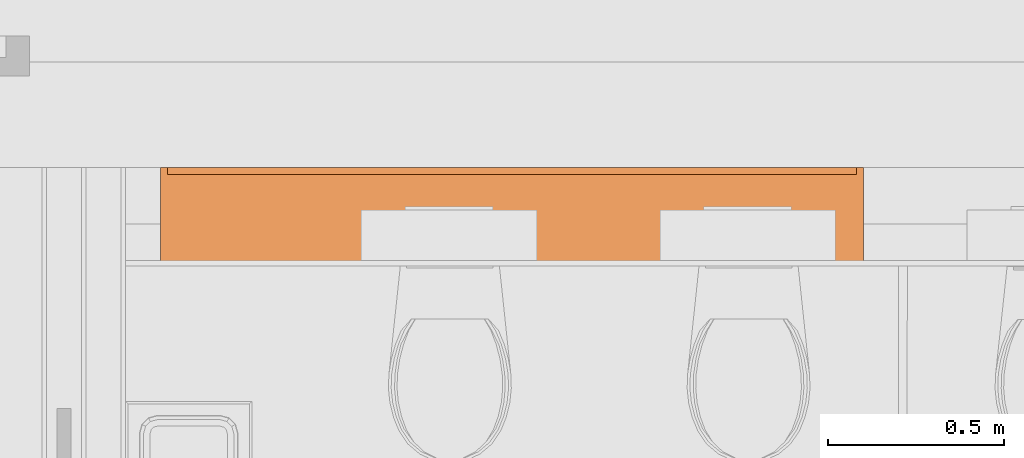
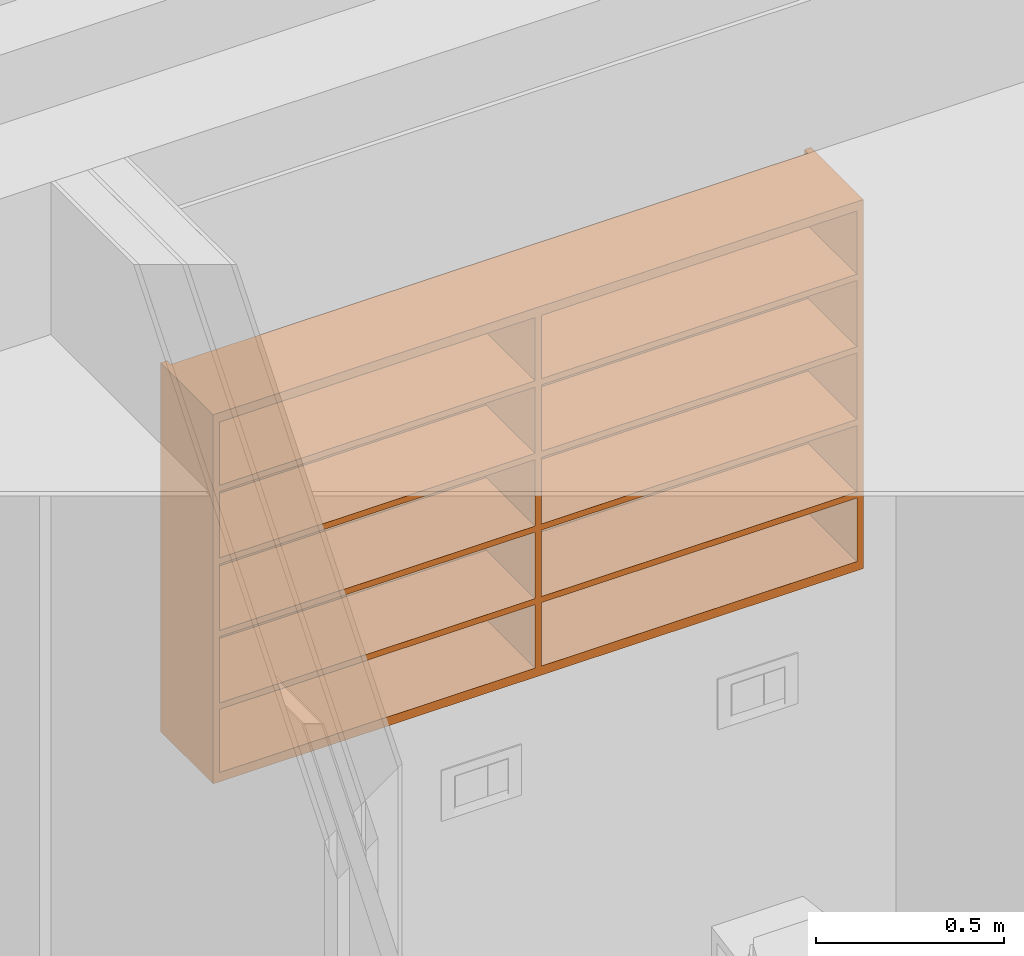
# One storey, part 113 of 167: 1 proxy.
"""IFC2X3 building model written with IfcOpenShell, lengths in millimetres."""

from ifc_helpers import new_model, entity, si_unit, converted_unit, derived_unit, money_unit, direction, frame, origin_with_axes, place, context, subcontext, project, spatial, faceted_brep, source, transform, mapped, type_object, type_shapes, element, save


model = new_model("IFC2X3")

# Units and contexts
model_context = context("Model", 3, precision=0.01, world=origin_with_axes(), true_north=direction((0.0, 1.0)))
plan_context = context("Plan", 3, precision=0.01, world=origin_with_axes(), true_north=direction((0.0, 1.0)))
body_context = subcontext(model_context, "Body", "Model", "MODEL_VIEW")
ifc_project = project(units=[si_unit("LENGTHUNIT", "METRE", prefix="MILLI"), si_unit("AREAUNIT", "SQUARE_METRE"), si_unit("VOLUMEUNIT", "CUBIC_METRE"), converted_unit("PLANEANGLEUNIT", "DEGREE", entity("IfcPlaneAngleMeasure", 0.0174532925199), si_unit("PLANEANGLEUNIT", "RADIAN"), dimensions=[0, 0, 0, 0, 0, 0, 0]), si_unit("SOLIDANGLEUNIT", "STERADIAN"), money_unit("EUR"), converted_unit("TIMEUNIT", "Year", entity("IfcTimeMeasure", 31556926.0), si_unit("TIMEUNIT", "SECOND"), dimensions=[0, 0, 1, 0, 0, 0, 0]), si_unit("MASSUNIT", "GRAM", prefix="KILO"), si_unit("THERMODYNAMICTEMPERATUREUNIT", "DEGREE_CELSIUS"), si_unit("LUMINOUSINTENSITYUNIT", "LUMEN"), si_unit("ENERGYUNIT", "JOULE", prefix="MEGA"), derived_unit("THERMALCONDUCTANCEUNIT", [(si_unit("POWERUNIT", "WATT"), 1), (si_unit("LENGTHUNIT", "METRE"), -1), (si_unit("THERMODYNAMICTEMPERATUREUNIT", "KELVIN"), -1)]), derived_unit("SPECIFICHEATCAPACITYUNIT", [(si_unit("ENERGYUNIT", "JOULE"), 1), (si_unit("MASSUNIT", "GRAM", prefix="KILO"), -1), (si_unit("THERMODYNAMICTEMPERATUREUNIT", "KELVIN"), -1)]), derived_unit("MASSDENSITYUNIT", [(si_unit("MASSUNIT", "GRAM", prefix="KILO"), 1), (si_unit("VOLUMEUNIT", "CUBIC_METRE"), -1)])], contexts=[model_context, plan_context])

# Site, building, storey
site_placement = place(None, origin_with_axes())
site = spatial("IfcSite", under=ifc_project, at=site_placement, Name="Site", CompositionType="ELEMENT")
building_placement = place(site_placement, origin_with_axes())
building = spatial("IfcBuilding", under=site, at=building_placement, Name="Naam gebouw", CompositionType="ELEMENT")
storey_placement = place(building_placement, origin_with_axes())
storey = spatial("IfcBuildingStorey", under=building, at=storey_placement, Name="Begane grond", CompositionType="ELEMENT", Elevation=0.0)

# Proxy
building_element_proxy_type = type_object("IfcBuildingElementProxyType", Name="Boekenplank 01 24", PredefinedType="NOTDEFINED")
shared_shape = source(origin_with_axes(), body_context, "Body", "Brep", [
    faceted_brep([(1980.0, 280.0, 20.0), (1980.0, 280.0, 1180.0), (1980.0, 260.0, 1180.0), (1980.0, 260.0, 20.0), (20.0, 280.0, 20.0), (20.0, 280.0, 1180.0), (20.0, 260.0, 1180.0), (20.0, 260.0, 20.0)], [[[0, 1, 2, 3]], [[4, 5, 1, 0]], [[1, 5, 6, 2]], [[3, 2, 6, 7]], [[0, 3, 7, 4]], [[7, 6, 5, 4]]]),
    faceted_brep([(1980.0, 260.0, 0.0), (1980.0, 260.0, 30.0), (1980.0, 0.0, 30.0), (1980.0, 0.0, 0.0), (1010.0, 260.0, 0.0), (1010.0, 260.0, 30.0), (1010.0, 0.0, 30.0), (1010.0, 0.0, 0.0)], [[[0, 1, 2, 3]], [[4, 5, 1, 0]], [[1, 5, 6, 2]], [[3, 2, 6, 7]], [[0, 3, 7, 4]], [[7, 6, 5, 4]]]),
    faceted_brep([(990.0, 260.0, 0.0), (990.0, 260.0, 30.0), (990.0, 0.0, 30.0), (990.0, 0.0, 0.0), (20.0, 260.0, 0.0), (20.0, 260.0, 30.0), (20.0, 0.0, 30.0), (20.0, 0.0, 0.0)], [[[0, 1, 2, 3]], [[4, 5, 1, 0]], [[1, 5, 6, 2]], [[3, 2, 6, 7]], [[0, 3, 7, 4]], [[7, 6, 5, 4]]]),
    faceted_brep([(1980.0, 260.0, 1170.0), (1980.0, 260.0, 1200.0), (1980.0, 0.0, 1200.0), (1980.0, 0.0, 1170.0), (1010.0, 260.0, 1170.0), (1010.0, 260.0, 1200.0), (1010.0, 0.0, 1200.0), (1010.0, 0.0, 1170.0)], [[[0, 1, 2, 3]], [[4, 5, 1, 0]], [[1, 5, 6, 2]], [[3, 2, 6, 7]], [[0, 3, 7, 4]], [[7, 6, 5, 4]]]),
    faceted_brep([(990.0, 260.0, 1170.0), (990.0, 260.0, 1200.0), (990.0, 0.0, 1200.0), (990.0, 0.0, 1170.0), (20.0, 260.0, 1170.0), (20.0, 260.0, 1200.0), (20.0, 0.0, 1200.0), (20.0, 0.0, 1170.0)], [[[0, 1, 2, 3]], [[4, 5, 1, 0]], [[1, 5, 6, 2]], [[3, 2, 6, 7]], [[0, 3, 7, 4]], [[7, 6, 5, 4]]]),
    faceted_brep([(20.0, 0.0, 0.0), (20.0, 0.0, 1200.0), (0.0, 0.0, 1200.0), (0.0, 0.0, 0.0), (20.0, 280.0, 0.0), (20.0, 280.0, 1200.0), (0.0, 280.0, 1200.0), (0.0, 280.0, 0.0)], [[[0, 1, 2, 3]], [[4, 5, 1, 0]], [[1, 5, 6, 2]], [[3, 2, 6, 7]], [[0, 3, 7, 4]], [[7, 6, 5, 4]]]),
    faceted_brep([(1980.0, 280.0, 0.0), (1980.0, 280.0, 1200.0), (2000.0, 280.0, 1200.0), (2000.0, 280.0, 0.0), (1980.0, 0.0, 0.0), (1980.0, 0.0, 1200.0), (2000.0, 0.0, 1200.0), (2000.0, 0.0, 0.0)], [[[0, 1, 2, 3]], [[4, 5, 1, 0]], [[1, 5, 6, 2]], [[3, 2, 6, 7]], [[0, 3, 7, 4]], [[7, 6, 5, 4]]]),
    faceted_brep([(990.0, 260.0, 0.0), (990.0, 260.0, 1200.0), (1010.0, 260.0, 1200.0), (1010.0, 260.0, 0.0), (990.0, 0.0, 0.0), (990.0, 0.0, 1200.0), (1010.0, 0.0, 1200.0), (1010.0, 0.0, 0.0)], [[[0, 1, 2, 3]], [[4, 5, 1, 0]], [[1, 5, 6, 2]], [[3, 2, 6, 7]], [[0, 3, 7, 4]], [[7, 6, 5, 4]]]),
    faceted_brep([(1980.0, 260.0, 236.0), (1980.0, 260.0, 256.0), (1980.0, 0.0, 256.0), (1980.0, 0.0, 236.0), (1010.0, 260.0, 236.0), (1010.0, 260.0, 256.0), (1010.0, 0.0, 256.0), (1010.0, 0.0, 236.0)], [[[0, 1, 2, 3]], [[4, 5, 1, 0]], [[1, 5, 6, 2]], [[3, 2, 6, 7]], [[0, 3, 7, 4]], [[7, 6, 5, 4]]]),
    faceted_brep([(1980.0, 260.0, 472.0), (1980.0, 260.0, 492.0), (1980.0, 0.0, 492.0), (1980.0, 0.0, 472.0), (1010.0, 260.0, 472.0), (1010.0, 260.0, 492.0), (1010.0, 0.0, 492.0), (1010.0, 0.0, 472.0)], [[[0, 1, 2, 3]], [[4, 5, 1, 0]], [[1, 5, 6, 2]], [[3, 2, 6, 7]], [[0, 3, 7, 4]], [[7, 6, 5, 4]]]),
    faceted_brep([(1980.0, 260.0, 708.0), (1980.0, 260.0, 728.0), (1980.0, 0.0, 728.0), (1980.0, 0.0, 708.0), (1010.0, 260.0, 708.0), (1010.0, 260.0, 728.0), (1010.0, 0.0, 728.0), (1010.0, 0.0, 708.0)], [[[0, 1, 2, 3]], [[4, 5, 1, 0]], [[1, 5, 6, 2]], [[3, 2, 6, 7]], [[0, 3, 7, 4]], [[7, 6, 5, 4]]]),
    faceted_brep([(1980.0, 260.0, 944.0), (1980.0, 260.0, 964.0), (1980.0, 0.0, 964.0), (1980.0, 0.0, 944.0), (1010.0, 260.0, 944.0), (1010.0, 260.0, 964.0), (1010.0, 0.0, 964.0), (1010.0, 0.0, 944.0)], [[[0, 1, 2, 3]], [[4, 5, 1, 0]], [[1, 5, 6, 2]], [[3, 2, 6, 7]], [[0, 3, 7, 4]], [[7, 6, 5, 4]]]),
    faceted_brep([(990.0, 260.0, 236.0), (990.0, 260.0, 256.0), (990.0, 0.0, 256.0), (990.0, 0.0, 236.0), (20.0, 260.0, 236.0), (20.0, 260.0, 256.0), (20.0, 0.0, 256.0), (20.0, 0.0, 236.0)], [[[0, 1, 2, 3]], [[4, 5, 1, 0]], [[1, 5, 6, 2]], [[3, 2, 6, 7]], [[0, 3, 7, 4]], [[7, 6, 5, 4]]]),
    faceted_brep([(990.0, 260.0, 472.0), (990.0, 260.0, 492.0), (990.0, 0.0, 492.0), (990.0, 0.0, 472.0), (20.0, 260.0, 472.0), (20.0, 260.0, 492.0), (20.0, 0.0, 492.0), (20.0, 0.0, 472.0)], [[[0, 1, 2, 3]], [[4, 5, 1, 0]], [[1, 5, 6, 2]], [[3, 2, 6, 7]], [[0, 3, 7, 4]], [[7, 6, 5, 4]]]),
    faceted_brep([(990.0, 260.0, 708.0), (990.0, 260.0, 728.0), (990.0, 0.0, 728.0), (990.0, 0.0, 708.0), (20.0, 260.0, 708.0), (20.0, 260.0, 728.0), (20.0, 0.0, 728.0), (20.0, 0.0, 708.0)], [[[0, 1, 2, 3]], [[4, 5, 1, 0]], [[1, 5, 6, 2]], [[3, 2, 6, 7]], [[0, 3, 7, 4]], [[7, 6, 5, 4]]]),
    faceted_brep([(990.0, 260.0, 944.0), (990.0, 260.0, 964.0), (990.0, 0.0, 964.0), (990.0, 0.0, 944.0), (20.0, 260.0, 944.0), (20.0, 260.0, 964.0), (20.0, 0.0, 964.0), (20.0, 0.0, 944.0)], [[[0, 1, 2, 3]], [[4, 5, 1, 0]], [[1, 5, 6, 2]], [[3, 2, 6, 7]], [[0, 3, 7, 4]], [[7, 6, 5, 4]]]),
])
type_shapes(building_element_proxy_type, [shared_shape])
proxy_placement = place(storey_placement, frame((31349.999953, 49220.0, 1400.0), z_axis=(0.0, 0.0, 1.0), x_axis=(1.0, 0.0, 0.0)))
element("IfcBuildingElementProxy", 1, at=proxy_placement, inside=storey, type_object=building_element_proxy_type, Name="__Object-x", context=body_context, shape_type="MappedRepresentation", body=[
    mapped(shared_shape, transform((0.0, 0.0, 0.0))),
])

save(model, "model.ifc")
